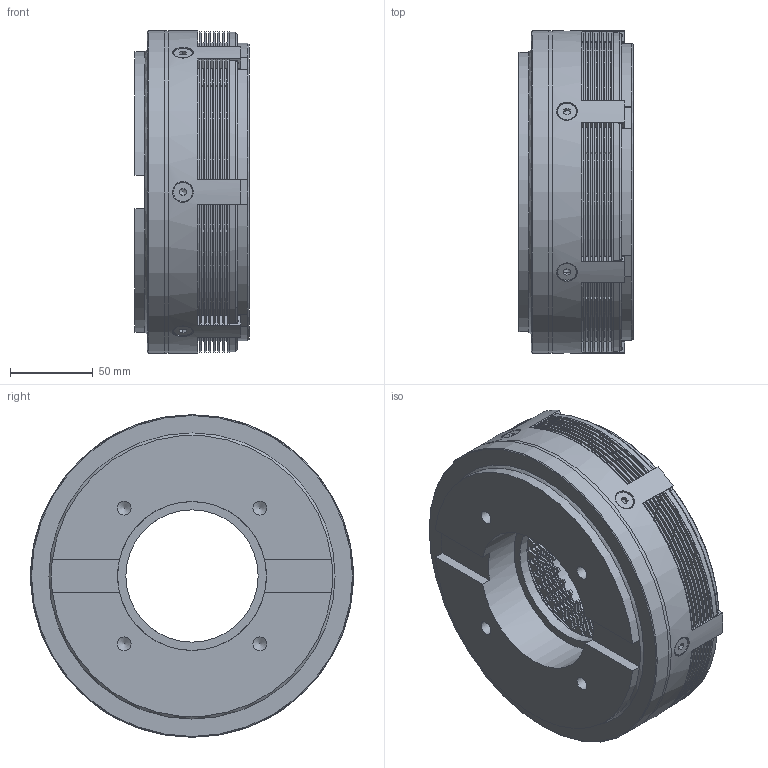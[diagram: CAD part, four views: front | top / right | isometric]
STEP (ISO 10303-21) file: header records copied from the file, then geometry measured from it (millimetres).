
FILE_DESCRIPTION(/* description */ (''),/* implementation_level */ '2;1');
FILE_NAME(/* name */ 'X:\INVENTOR\DISEGNI\05_Friz_Elettmag-Lam\05_02 ECF\05_02_195_01 ECF195\05_02_195_01 ECF195@STEP.stp',/* time_stamp */ '2023-03-06T09:30:34+01:00',/* author */ ('alessio'),/* organization */ (''),/* preprocessor_version */ 'ST-DEVELOPER v18.1',/* originating_system */ 'Autodesk Inventor 2021',/* authorisation */ '');
FILE_SCHEMA (('AUTOMOTIVE_DESIGN { 1 0 10303 214 3 1 1 }'));
Products named in the file (1): 05_02_195_01 ECF195
Bounding box: 69 x 195 x 195 mm (x, y, z)
Volume: 1356203.9 mm3; surface area: 564569.3 mm2
Topology: 12 solids, 25 shells, 2311 faces, 6837 edges, 4500 vertices
Faces by surface type: cylinder 1742, plane 517, cone 45, torus 7
Full cylindrical faces by diameter (mm): 2 x12, 4.917 x6, 6 x6, 6.5 x6, 8.376 x4, 11.34 x6, 12.5 x6, 80 x1, 90 x1, 92 x2, 128 x1, 131 x1, 155 x1, 156 x1, 180 x1, 195 x3
Entity records: 83255 total; most frequent: CARTESIAN_POINT 15460, DIRECTION 14974, ORIENTED_EDGE 13652, EDGE_CURVE 6826, AXIS2_PLACEMENT_3D 6015, VERTEX_POINT 4500, CIRCLE 3679, LINE 2944
